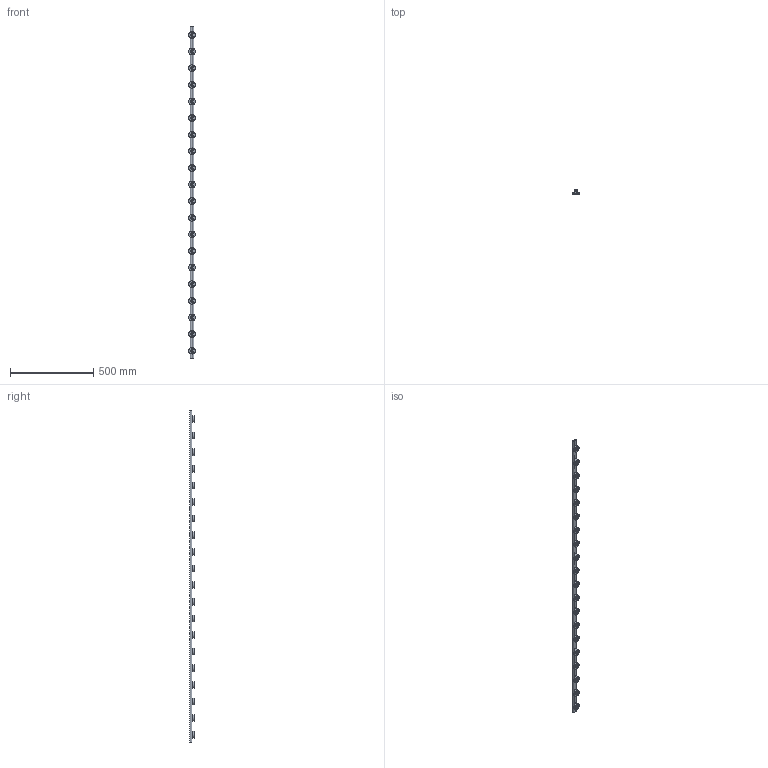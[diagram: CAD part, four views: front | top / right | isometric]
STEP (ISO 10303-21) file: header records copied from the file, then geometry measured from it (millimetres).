
FILE_DESCRIPTION (( 'STEP AP214' ), '1' );
FILE_NAME ('LF 1_-_LF 1 1998 mm lang.step', '2005-06-03T05:56:50', ( ' ' ), ( ' ' ), 'SwSTEP 2.0', 'SolidWorks 2004231', '' );
FILE_SCHEMA (( 'AUTOMOTIVE_DESIGN' ));
Length unit declared in the file: millimetre
Products named in the file (1): LF 1_-_LF 1  1998 mm lang
Bounding box: 40 x 27 x 1998 mm (x, y, z)
Volume: 725091.4 mm3; surface area: 252672.1 mm2
Topology: 1 solids, 1 shells, 2227 faces, 5515 edges, 3330 vertices
Faces by surface type: plane 1044, cylinder 863, cone 200, torus 120
Entity records: 67991 total; most frequent: CARTESIAN_POINT 18769, ORIENTED_EDGE 10630, DIRECTION 9557, EDGE_CURVE 5315, AXIS2_PLACEMENT_3D 3394, VERTEX_POINT 3330, VECTOR 2769, LINE 2769
